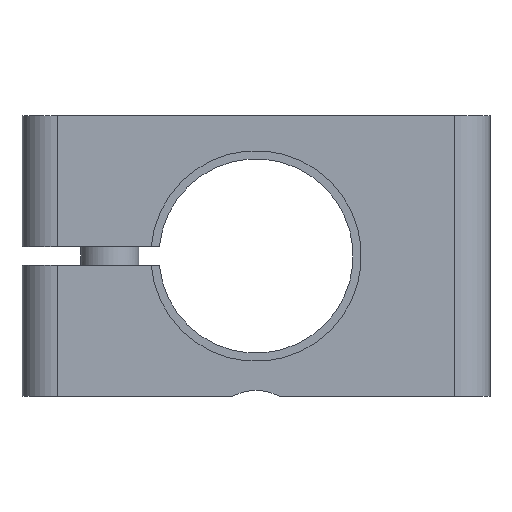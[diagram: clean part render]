
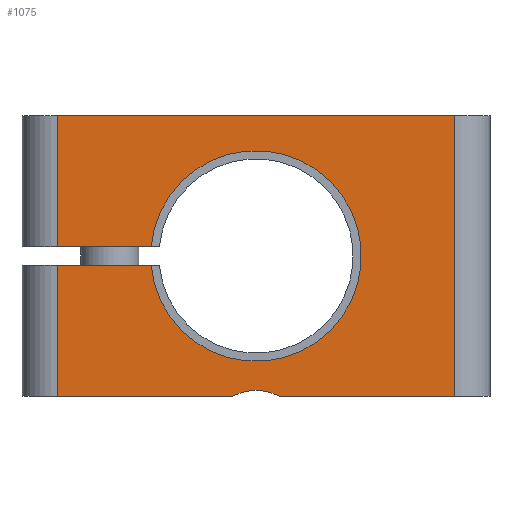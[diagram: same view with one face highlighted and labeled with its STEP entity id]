
A CAD part, front view. The second image highlights one B-rep face of the part: STEP entity #1075.
In plain terms, the highlighted planar face has unit normal (0, -1, 0).
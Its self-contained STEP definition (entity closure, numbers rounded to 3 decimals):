
#812=CARTESIAN_POINT('',(-8.964,-15.0,0.8));
#813=VERTEX_POINT('',#812);
#829=CARTESIAN_POINT('',(-8.964,-15.0,-0.8));
#830=VERTEX_POINT('',#829);
#837=CARTESIAN_POINT('',(0.,-15.0,0.0));
#838=DIRECTION('',(0.0,1.0,0.0));
#839=DIRECTION('',(-1.0,0.0,0.0));
#840=AXIS2_PLACEMENT_3D('',#837,#838,#839);
#841=CIRCLE('',#840,9.0);
#842=EDGE_CURVE('',#813,#830,#841,.T.);
#886=CARTESIAN_POINT('',(-17.,-15.0,0.8));
#887=VERTEX_POINT('',#886);
#888=CARTESIAN_POINT('',(-17.,-15.0,0.8));
#889=DIRECTION('',(1.0,0.0,0.0));
#890=VECTOR('',#889,8.036);
#891=LINE('',#888,#890);
#892=EDGE_CURVE('',#887,#813,#891,.T.);
#1003=CARTESIAN_POINT('',(17.,-15.0,0.0));
#1004=DIRECTION('',(0.0,-1.0,0.0));
#1005=DIRECTION('',(0.0,0.0,-1.0));
#1006=AXIS2_PLACEMENT_3D('',#1003,#1004,#1005);
#1007=PLANE('',#1006);
#1008=ORIENTED_EDGE('',*,*,#842,.T.);
#1009=CARTESIAN_POINT('',(-17.,-15.0,-0.8));
#1010=VERTEX_POINT('',#1009);
#1011=CARTESIAN_POINT('',(-8.964,-15.0,-0.8));
#1012=DIRECTION('',(-1.0,0.0,0.0));
#1013=VECTOR('',#1012,8.036);
#1014=LINE('',#1011,#1013);
#1015=EDGE_CURVE('',#830,#1010,#1014,.T.);
#1016=ORIENTED_EDGE('',*,*,#1015,.T.);
#1017=CARTESIAN_POINT('',(-17.,-15.0,-12.));
#1018=VERTEX_POINT('',#1017);
#1019=CARTESIAN_POINT('',(-17.,-15.0,-0.8));
#1020=DIRECTION('',(0.0,0.0,-1.0));
#1021=VECTOR('',#1020,11.2);
#1022=LINE('',#1019,#1021);
#1023=EDGE_CURVE('',#1010,#1018,#1022,.T.);
#1024=ORIENTED_EDGE('',*,*,#1023,.T.);
#1025=CARTESIAN_POINT('',(-2.,-15.,-12.));
#1026=VERTEX_POINT('',#1025);
#1027=CARTESIAN_POINT('',(-17.,-15.0,-12.));
#1028=DIRECTION('',(1.0,0.0,0.0));
#1029=VECTOR('',#1028,15.);
#1030=LINE('',#1027,#1029);
#1031=EDGE_CURVE('',#1018,#1026,#1030,.T.);
#1032=ORIENTED_EDGE('',*,*,#1031,.T.);
#1033=CARTESIAN_POINT('',(2.,-15.0,-12.));
#1034=VERTEX_POINT('',#1033);
#1035=CARTESIAN_POINT('',(0.,-15.,-15.65));
#1036=DIRECTION('',(0.,1.,0.));
#1037=DIRECTION('',(-0.481,0.,0.877));
#1038=AXIS2_PLACEMENT_3D('',#1035,#1036,#1037);
#1039=CIRCLE('',#1038,4.162);
#1040=EDGE_CURVE('',#1026,#1034,#1039,.T.);
#1041=ORIENTED_EDGE('',*,*,#1040,.T.);
#1042=CARTESIAN_POINT('',(17.,-15.0,-12.));
#1043=VERTEX_POINT('',#1042);
#1044=CARTESIAN_POINT('',(2.,-15.0,-12.));
#1045=DIRECTION('',(1.0,0.0,0.0));
#1046=VECTOR('',#1045,15.);
#1047=LINE('',#1044,#1046);
#1048=EDGE_CURVE('',#1034,#1043,#1047,.T.);
#1049=ORIENTED_EDGE('',*,*,#1048,.T.);
#1050=CARTESIAN_POINT('',(17.,-15.0,12.));
#1051=VERTEX_POINT('',#1050);
#1052=CARTESIAN_POINT('',(17.,-15.0,12.));
#1053=DIRECTION('',(0.0,0.0,-1.0));
#1054=VECTOR('',#1053,24.);
#1055=LINE('',#1052,#1054);
#1056=EDGE_CURVE('',#1051,#1043,#1055,.T.);
#1057=ORIENTED_EDGE('',*,*,#1056,.F.);
#1058=CARTESIAN_POINT('',(-17.,-15.0,12.));
#1059=VERTEX_POINT('',#1058);
#1060=CARTESIAN_POINT('',(17.,-15.0,12.));
#1061=DIRECTION('',(-1.0,0.0,0.0));
#1062=VECTOR('',#1061,34.0);
#1063=LINE('',#1060,#1062);
#1064=EDGE_CURVE('',#1051,#1059,#1063,.T.);
#1065=ORIENTED_EDGE('',*,*,#1064,.T.);
#1066=CARTESIAN_POINT('',(-17.,-15.0,12.));
#1067=DIRECTION('',(0.0,0.0,-1.0));
#1068=VECTOR('',#1067,11.2);
#1069=LINE('',#1066,#1068);
#1070=EDGE_CURVE('',#1059,#887,#1069,.T.);
#1071=ORIENTED_EDGE('',*,*,#1070,.T.);
#1072=ORIENTED_EDGE('',*,*,#892,.T.);
#1073=EDGE_LOOP('',(#1008,#1016,#1024,#1032,#1041,#1049,#1057,#1065,#1071,#1072));
#1074=FACE_OUTER_BOUND('',#1073,.T.);
#1075=ADVANCED_FACE('',(#1074),#1007,.T.);
